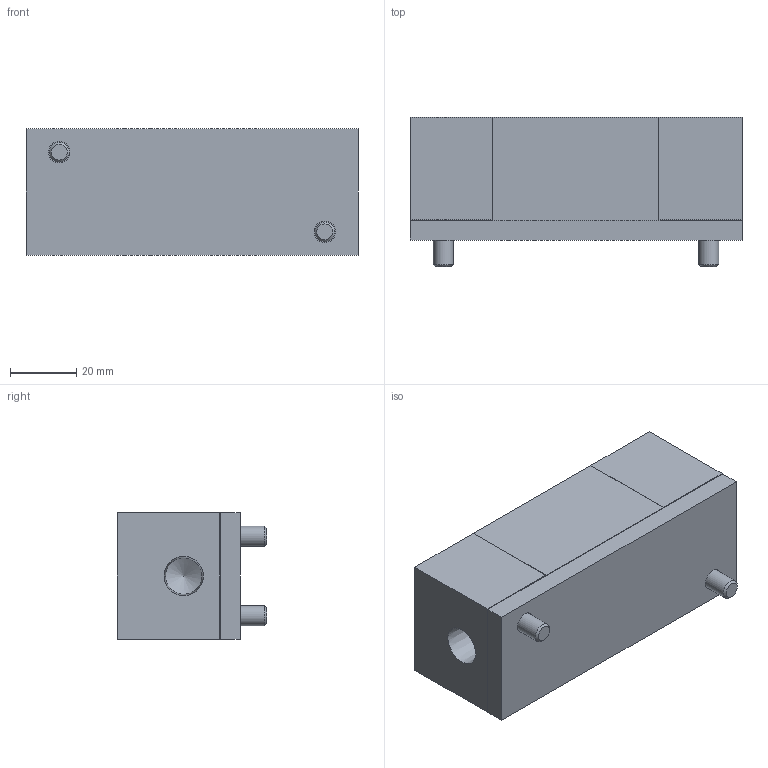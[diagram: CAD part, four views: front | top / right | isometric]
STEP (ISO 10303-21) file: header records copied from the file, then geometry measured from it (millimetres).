
FILE_DESCRIPTION( ( 'STEP AP214' ), '1' );
FILE_NAME( 'Z:/01-DesignData/標準品図面/★Web／カタログ用データ(型式別 3点Set)/067-ISR38 系/ISR38-100-A_0_.stp', '2022-05-10T00:05:47', ( 'License CC BY-ND 4.0' ), ( 'CADENAS' ), ' ', 'PARTsolutions', ' ' );
FILE_SCHEMA( ( 'AUTOMOTIVE_DESIGN { 1 0 10303 214 1 1 1 1 }' ) );
Length unit declared in the file: millimetre
Products named in the file (5): ISR38-100-A(0); _ISR38-100-A-Body; _ISR38-100-A-Box; _ISR38-100-A(0)-Ball; _ISR38-100-A-screw
Assembly tree (5 placements, depth 2):
  ISR38-100-A(0)
    _ISR38-100-A-Body
    _ISR38-100-A-Box
    _ISR38-100-A(0)-Ball
    _ISR38-100-A-screw  x2
Bounding box: 100 x 45 x 38 mm (x, y, z)
Volume: 133598.9 mm3; surface area: 39764.2 mm2
Topology: 5 solids, 5 shells, 167 faces, 360 edges, 220 vertices
Faces by surface type: plane 127, cylinder 21, cone 12, torus 6, sphere 1
Full cylindrical faces by diameter (mm): 6 x2, 6.5 x2, 7 x2, 8 x2, 8.5 x2, 9.5 x2, 10 x2, 11 x2, 25.7 x1, 31.5 x1, 32 x1, 35 x2
Entity records: 4920 total; most frequent: DIRECTION 654, CARTESIAN_POINT 608, ORIENTED_EDGE 536, EDGE_CURVE 268, AXIS2_PLACEMENT_3D 233, EDGE_LOOP 202, LINE 188, VECTOR 188
